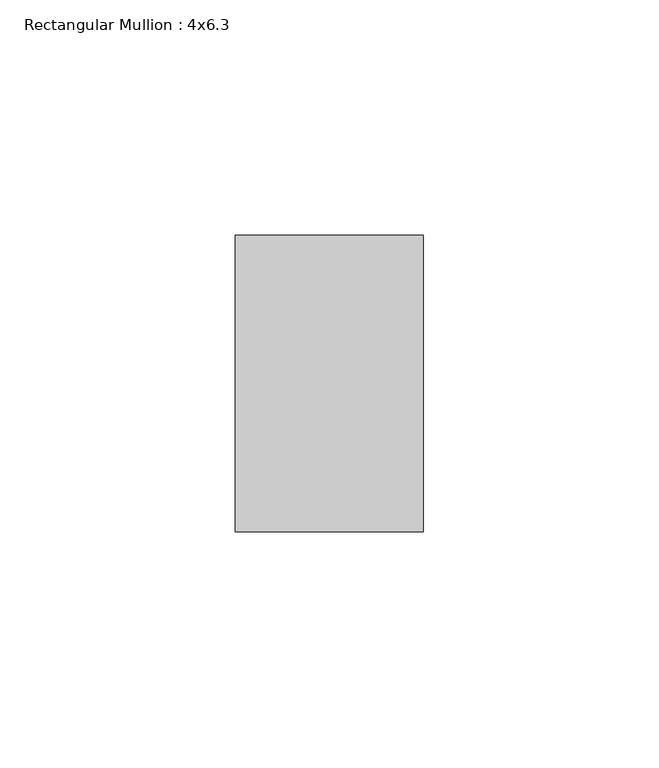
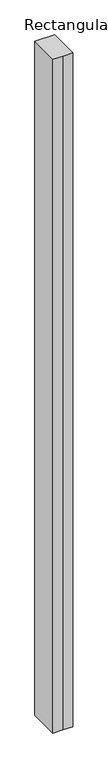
"""IFC4 building model written with IfcOpenShell, lengths in millimetres: member geometry, Rectangular Mullion : 4x6.3."""

from ifc_helpers import new_model, si_unit, frame, origin, place, context, project, spatial, polyline, outline, extrude, source, transform, mapped, element, save


def rectangular_mullion_4x6_3_0b9bcb54(model_context):
    return source(origin(), model_context, "Body", "SweptSolid", [
        extrude(outline(polyline([(-20.0, 20.0), (-20.0, 83.0), (20.0, 83.0), (20.0, 20.0), (0.0, 20.0), (-20.0, 20.0)])), frame((0.0, 0.0, -1442.3784576), z_axis=(0.0, 0.0, 1.0), x_axis=(1.0, 0.0, 0.0)), (0.0, 0.0, 1.0), 1442.3784576),
    ])


if __name__ == "__main__":
    model = new_model("IFC4")
    model_context = context("Model", 3, world=origin())
    ifc_project = project(units=[si_unit("LENGTHUNIT", "METRE", prefix="MILLI")], contexts=[model_context])
    site = spatial("IfcSite", under=ifc_project)
    building = spatial("IfcBuilding", under=site)
    placement = place(None, origin())
    rectangular_mullion_4x6_3_shape = rectangular_mullion_4x6_3_0b9bcb54(model_context)
    element("IfcMember", 1, ObjectType="Rectangular Mullion : 4x6.3", at=placement, inside=building, context=model_context, shape_type="MappedRepresentation", body=[
        mapped(rectangular_mullion_4x6_3_shape, transform((0.0, 0.0, 0.0), x_axis=(1.0, 0.0, 0.0), y_axis=(0.0, 1.0, 0.0), z_axis=(0.0, 0.0, 1.0))),
    ])
    save(model, "model.ifc")
